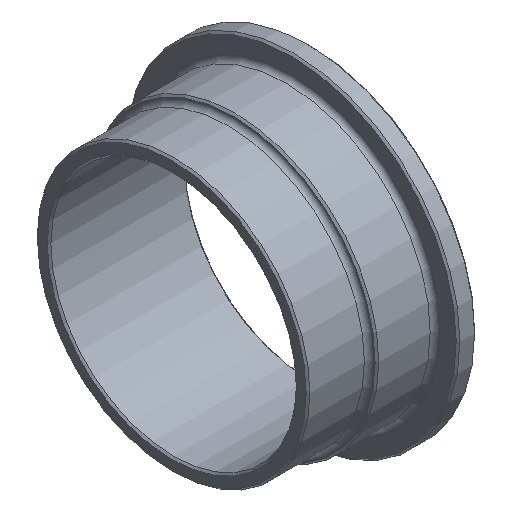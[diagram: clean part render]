
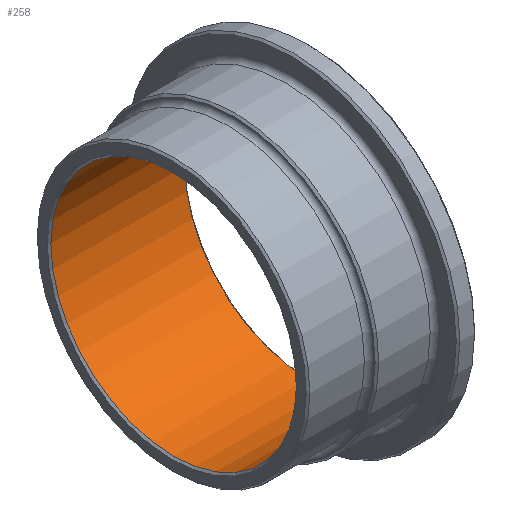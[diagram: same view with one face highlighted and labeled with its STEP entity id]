
A CAD part, isometric view. The second image highlights one B-rep face of the part: STEP entity #258.
In plain terms, the highlighted cylindrical face has radius 20.05 mm (diameter 40.1 mm), a full revolution.
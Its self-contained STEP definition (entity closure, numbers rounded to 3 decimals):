
#25=LINE('',#476,#35);
#35=VECTOR('',#393,20.05);
#43=CYLINDRICAL_SURFACE('',#312,20.05);
#62=FACE_OUTER_BOUND('',#81,.T.);
#81=EDGE_LOOP('',(#213,#214,#215,#216,#217,#218));
#104=CIRCLE('',#308,20.05);
#105=CIRCLE('',#309,20.05);
#107=CIRCLE('',#313,20.05);
#108=CIRCLE('',#314,20.05);
#128=VERTEX_POINT('',#463);
#129=VERTEX_POINT('',#465);
#131=VERTEX_POINT('',#472);
#132=VERTEX_POINT('',#473);
#158=EDGE_CURVE('',#128,#129,#104,.T.);
#159=EDGE_CURVE('',#129,#128,#105,.T.);
#161=EDGE_CURVE('',#131,#132,#107,.T.);
#162=EDGE_CURVE('',#132,#131,#108,.T.);
#163=EDGE_CURVE('',#132,#129,#25,.T.);
#213=ORIENTED_EDGE('',*,*,#161,.F.);
#214=ORIENTED_EDGE('',*,*,#162,.F.);
#215=ORIENTED_EDGE('',*,*,#163,.T.);
#216=ORIENTED_EDGE('',*,*,#158,.F.);
#217=ORIENTED_EDGE('',*,*,#159,.F.);
#218=ORIENTED_EDGE('',*,*,#163,.F.);
#258=ADVANCED_FACE('',(#62),#43,.F.);
#308=AXIS2_PLACEMENT_3D('',#466,#379,#380);
#309=AXIS2_PLACEMENT_3D('',#467,#381,#382);
#312=AXIS2_PLACEMENT_3D('',#471,#387,#388);
#313=AXIS2_PLACEMENT_3D('',#474,#389,#390);
#314=AXIS2_PLACEMENT_3D('',#475,#391,#392);
#379=DIRECTION('center_axis',(1.,0.,0.));
#380=DIRECTION('ref_axis',(0.,-1.,0.));
#381=DIRECTION('center_axis',(1.,0.,0.));
#382=DIRECTION('ref_axis',(0.,-1.,0.));
#387=DIRECTION('center_axis',(1.,0.,0.));
#388=DIRECTION('ref_axis',(0.,1.,0.));
#389=DIRECTION('center_axis',(-1.,0.,0.));
#390=DIRECTION('ref_axis',(0.,-1.,0.));
#391=DIRECTION('center_axis',(-1.,0.,0.));
#392=DIRECTION('ref_axis',(0.,-1.,0.));
#393=DIRECTION('',(-1.,0.,0.));
#463=CARTESIAN_POINT('',(-22.2,20.05,0.));
#465=CARTESIAN_POINT('',(-22.2,-20.05,0.));
#466=CARTESIAN_POINT('Origin',(-22.2,0.,0.));
#467=CARTESIAN_POINT('Origin',(-22.2,0.,0.));
#471=CARTESIAN_POINT('Origin',(-11.25,0.,0.));
#472=CARTESIAN_POINT('',(-0.3,20.05,0.));
#473=CARTESIAN_POINT('',(-0.3,-20.05,0.));
#474=CARTESIAN_POINT('Origin',(-0.3,0.,0.));
#475=CARTESIAN_POINT('Origin',(-0.3,0.,0.));
#476=CARTESIAN_POINT('',(-11.25,-20.05,0.));
